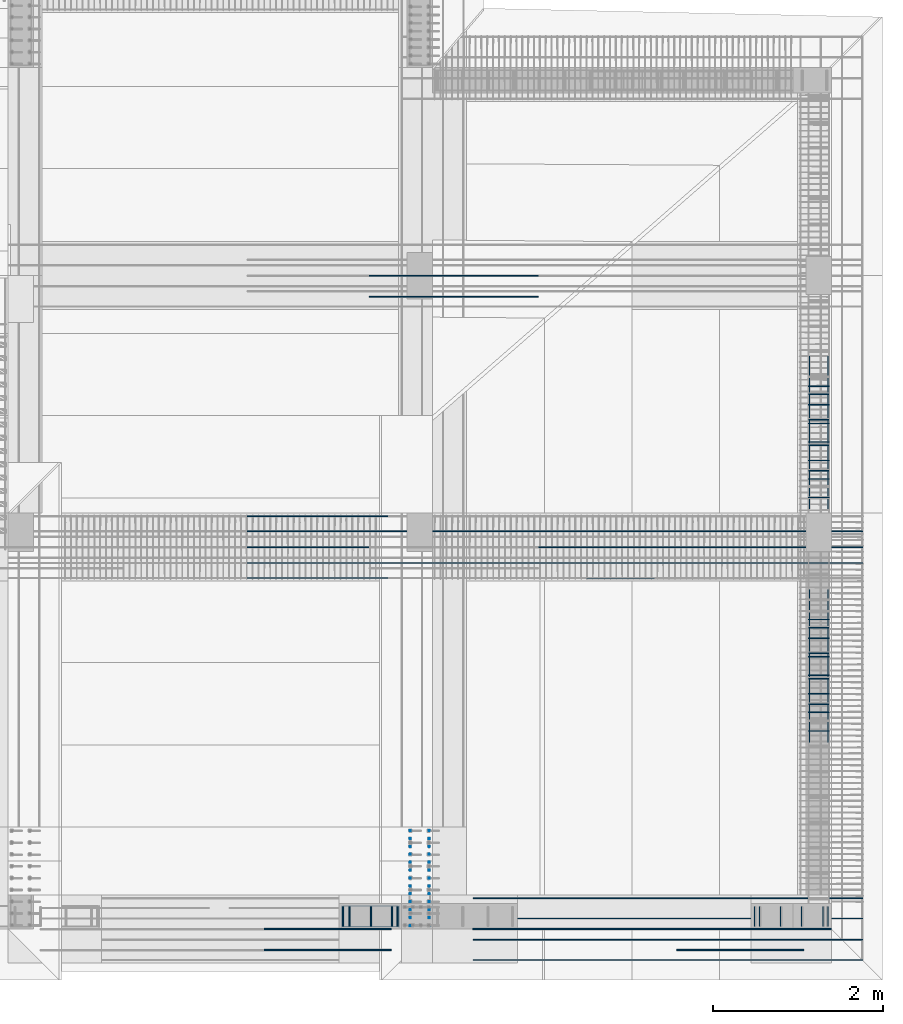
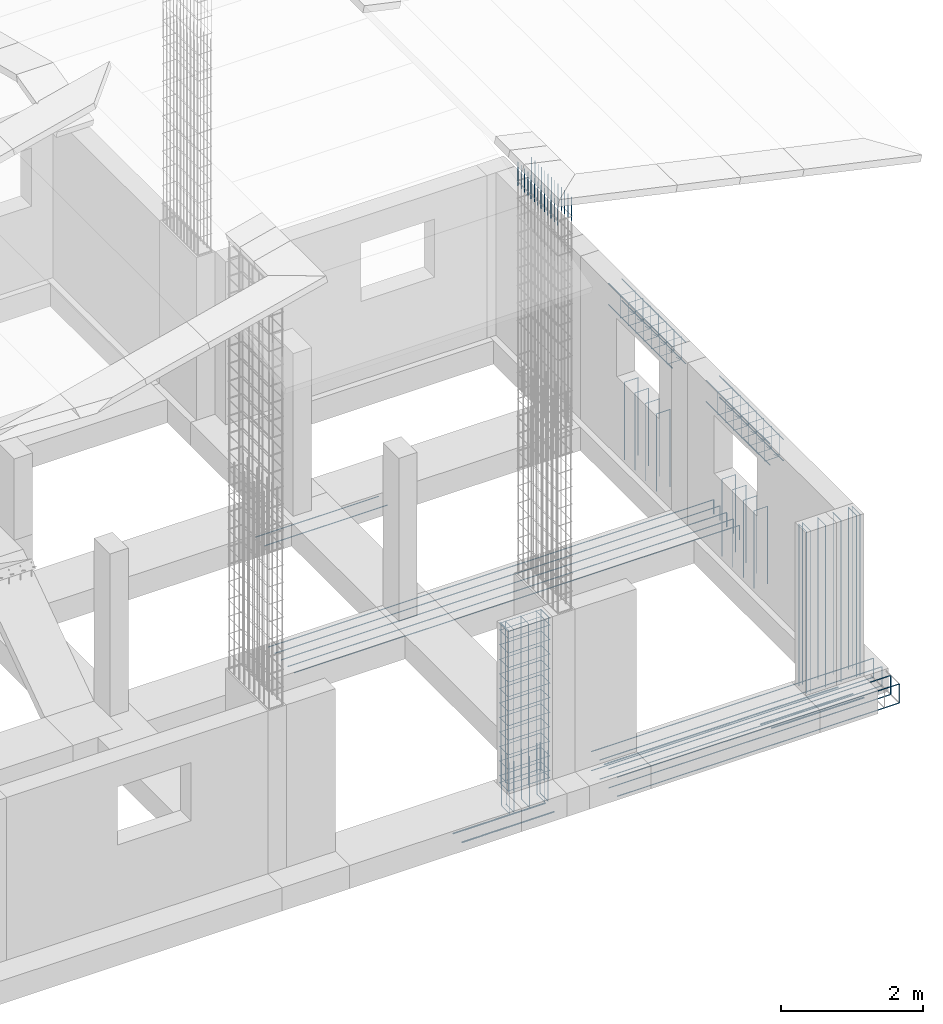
# One storey, part 8 of 15: 13 reinforcing bars.
"""IFC4 building model written with IfcOpenShell, lengths in metres."""

import ifcopenshell
import ifcopenshell.guid

model = None  # the IFC model being written
_history = None  # IfcOwnerHistory: only IFC2X3 demands one
_inside = {}  # id of a spatial element -> (the spatial element, [elements in it])
_under = {}  # id of a project, library or spatial element -> (it, [spatial elements below it])
_declared = {}  # id of a project -> (the project, [libraries it declares])
_typed = {}  # id of a type object -> (the type object, [elements of that type])
_made_of = {}  # id of a material, layer set ... -> (it, [elements and type objects made of it])


def new_model(schema):
    """Start an empty IFC model of exactly this schema.

    Asked for "IFC4X3", IfcOpenShell would pick the latest addendum, in which some entities
    have other attributes; the version numbers below select the first issue.
    IFC2X3 requires an IfcOwnerHistory on every rooted entity: one is made here for all.
    """
    global model, _history
    if schema == "IFC4X3":
        model = ifcopenshell.file(schema_version=(4, 3, 0, 0))
    else:
        model = ifcopenshell.file(schema=schema)
    _inside.clear()
    _under.clear()
    _declared.clear()
    _typed.clear()
    _made_of.clear()
    _history = None
    if model.schema == "IFC2X3":
        org = make("IfcOrganization", Name="unknown")
        user = make(
            "IfcPersonAndOrganization",
            ThePerson=make("IfcPerson", FamilyName="unknown"),
            TheOrganization=org,
        )
        app = make(
            "IfcApplication",
            ApplicationDeveloper=org,
            Version="unknown",
            ApplicationFullName="unknown",
            ApplicationIdentifier="unknown",
        )
        _history = make(
            "IfcOwnerHistory",
            OwningUser=user,
            OwningApplication=app,
            ChangeAction="ADDED",
            CreationDate=0,
        )
    return model


def make(cls, **values):
    """One entity of the class cls with the attributes given. An attribute that is None is left unset."""
    return model.create_entity(
        cls, **{name: value for name, value in values.items() if value is not None}
    )


def entity(cls, *values):
    """Any entity or typed value of the class cls, its attributes in the order of the schema. None: left unset."""
    e = model.create_entity(cls)
    for i, value in enumerate(values):
        if value is not None:
            e[i] = value
    return e


def rooted(cls, **values):
    """An entity with a GlobalId (a new one), such as an element, a storey or a relation."""
    return make(cls, GlobalId=ifcopenshell.guid.new(), OwnerHistory=_history, **values)


def si_unit(unit_type, name, prefix=None):
    """IfcSIUnit, for example si_unit("LENGTHUNIT", "METRE", prefix="MILLI")."""
    return make("IfcSIUnit", UnitType=unit_type, Prefix=prefix, Name=name)


def assignment(units):
    """IfcUnitAssignment: the units of a project."""
    return None if units is None else make("IfcUnitAssignment", Units=units)


def point(xyz):
    """IfcCartesianPoint."""
    return None if xyz is None else make("IfcCartesianPoint", Coordinates=xyz)


def direction(xyz):
    """IfcDirection."""
    return None if xyz is None else make("IfcDirection", DirectionRatios=xyz)


def frame(location, z_axis=None, x_axis=None):
    """IfcAxis2Placement3D, a coordinate frame: its origin and axes. An axis left out is left unset."""
    return make(
        "IfcAxis2Placement3D",
        Location=point(location),
        Axis=direction(z_axis),
        RefDirection=direction(x_axis),
    )


def origin_with_axes():
    """The frame at (0, 0, 0) with the z axis (0, 0, 1) and the x axis (1, 0, 0) written out."""
    return frame((0.0, 0.0, 0.0), z_axis=(0.0, 0.0, 1.0), x_axis=(1.0, 0.0, 0.0))


def place(relative_to, where):
    """IfcLocalPlacement: puts the frame where relative to a parent placement (None: the world)."""
    return make(
        "IfcLocalPlacement", PlacementRelTo=relative_to, RelativePlacement=where
    )


def context(
    kind, dimensions, precision=None, world=None, true_north=None, identifier=None
):
    """IfcGeometricRepresentationContext, for example the 3D "Model" context."""
    return make(
        "IfcGeometricRepresentationContext",
        ContextIdentifier=identifier,
        ContextType=kind,
        CoordinateSpaceDimension=dimensions,
        Precision=precision,
        WorldCoordinateSystem=world,
        TrueNorth=true_north,
    )


def project(units=None, contexts=None):
    """IfcProject with its units and contexts."""
    return rooted(
        "IfcProject",
        Name="project",
        RepresentationContexts=contexts,
        UnitsInContext=assignment(units),
    )


def spatial(cls, under=None, at=None, **own):
    """A site, building, storey or space (cls), placed at a placement, below another one or the project."""
    s = rooted(cls, ObjectPlacement=at, **own)
    if under is not None:
        _under.setdefault(under.id(), (under, []))[1].append(s)
    return s


def shape(context_of_items, identifier, shape_type, items):
    """IfcShapeRepresentation: the items that make up one representation, for example the "Body"."""
    return make(
        "IfcShapeRepresentation",
        ContextOfItems=context_of_items,
        RepresentationIdentifier=identifier,
        RepresentationType=shape_type,
        Items=items,
    )


def source(mapping_origin, context_of_items, identifier, shape_type, items):
    """IfcRepresentationMap: a shape defined once, which mapped items show again and again."""
    return make(
        "IfcRepresentationMap",
        MappingOrigin=mapping_origin,
        MappedRepresentation=shape(context_of_items, identifier, shape_type, items),
    )


def transform(
    local_origin,
    x_axis=None,
    y_axis=None,
    z_axis=None,
    scale=None,
    scale2=None,
    scale3=None,
    uniform=True,
):
    """IfcCartesianTransformationOperator3D, or its non-uniform kind. x_axis, y_axis, z_axis: its Axis1, 2, 3."""
    if uniform:
        return make(
            "IfcCartesianTransformationOperator3D",
            Axis1=direction(x_axis),
            Axis2=direction(y_axis),
            LocalOrigin=point(local_origin),
            Scale=scale,
            Axis3=direction(z_axis),
        )
    return make(
        "IfcCartesianTransformationOperator3DnonUniform",
        Axis1=direction(x_axis),
        Axis2=direction(y_axis),
        LocalOrigin=point(local_origin),
        Scale=scale,
        Axis3=direction(z_axis),
        Scale2=scale2,
        Scale3=scale3,
    )


def mapped(mapping_source, mapping_target):
    """IfcMappedItem: shows the shape of a source again, moved by a transform."""
    return make(
        "IfcMappedItem", MappingSource=mapping_source, MappingTarget=mapping_target
    )


def made_of(thing, what):
    """Note that an element or type object is made of a material, layer set ...; save() writes the relation."""
    if what is not None:
        _made_of.setdefault(what.id(), (what, []))[1].append(thing)
    return thing


def element(
    cls,
    number,
    at=None,
    inside=None,
    cuts=None,
    type_object=None,
    material=None,
    context=None,
    identifier="Body",
    shape_type=None,
    held_by="IfcProductDefinitionShape",
    body=None,
    shapes=None,
    **own,
):
    """One element of the class cls, such as IfcWall. Its Tag is "e" and its number.

    at: its placement. inside: the storey or other place that contains it. cuts: it is an
    opening in that element (IfcRelVoidsElement). A single representation is given by context,
    identifier, shape_type and body (its items); several are given by shapes. held_by: the class
    of the entity that holds the representations. save() writes the other relations.
    """
    e = rooted(cls, Tag="e%d" % number, ObjectPlacement=at, **own)
    if body is not None:
        shapes = [shape(context, identifier, shape_type, body)]
    if shapes is not None:
        e.Representation = make(held_by, Representations=shapes)
    if inside is not None:
        _inside.setdefault(inside.id(), (inside, []))[1].append(e)
    if cuts is not None:
        rooted(
            "IfcRelVoidsElement", RelatingBuildingElement=cuts, RelatedOpeningElement=e
        )
    if type_object is not None:
        _typed.setdefault(type_object.id(), (type_object, []))[1].append(e)
    return made_of(e, material)


def aggregate(whole, parts):
    """IfcRelAggregates: a whole, such as a stair, and the parts it consists of."""
    return rooted("IfcRelAggregates", RelatingObject=whole, RelatedObjects=parts)


def save(model, path):
    """Write the relations noted so far, then the file.

    IfcRelAggregates (storeys below a building ...), IfcRelContainedInSpatialStructure (elements
    in a storey), IfcRelDefinesByType, IfcRelAssociatesMaterial and IfcRelDeclares: one each for
    every whole, place, type object, material and project.
    """
    for whole, parts in _under.values():
        aggregate(whole, parts)
    for where, things in _inside.values():
        rooted(
            "IfcRelContainedInSpatialStructure",
            RelatedElements=things,
            RelatingStructure=where,
        )
    for kind, things in _typed.values():
        rooted("IfcRelDefinesByType", RelatedObjects=things, RelatingType=kind)
    for what, things in _made_of.values():
        rooted("IfcRelAssociatesMaterial", RelatedObjects=things, RelatingMaterial=what)
    for by, libraries in _declared.values():
        rooted("IfcRelDeclares", RelatingContext=by, RelatedDefinitions=libraries)
    model.write(path)


model = new_model("IFC4")

# Units and contexts
model_context = context("Model", 3, precision=1e-05, world=origin_with_axes())
ifc_project = project(units=[si_unit("LENGTHUNIT", "METRE"), si_unit("AREAUNIT", "SQUARE_METRE"), si_unit("VOLUMEUNIT", "CUBIC_METRE"), si_unit("MASSUNIT", "GRAM", prefix="KILO"), si_unit("TIMEUNIT", "SECOND"), si_unit("PLANEANGLEUNIT", "RADIAN"), si_unit("SOLIDANGLEUNIT", "STERADIAN"), si_unit("THERMODYNAMICTEMPERATUREUNIT", "DEGREE_CELSIUS")], contexts=[model_context])

# Site, building, storey
placement_1 = place(None, origin_with_axes())
site = spatial("IfcSite", under=ifc_project, at=placement_1, Name="Italia", CompositionType="ELEMENT")
building = spatial("IfcBuilding", under=site, at=placement_1, Name="Bifamiliare", CompositionType="ELEMENT")
storey = spatial("IfcBuildingStorey", under=building, at=placement_1, Name="Storey 0", CompositionType="ELEMENT", Elevation=0.0)

# Reinforcing bars
shared_shape_1 = source(origin_with_axes(), model_context, "Body", "AdvancedSweptSolid", [
    entity("IfcSweptDiskSolid", entity("IfcIndexedPolyCurve", entity("IfcCartesianPointList3D", [[10.761, 2.561, 9.47667], [10.761, 2.561, 9.88333]]), [entity("IfcLineIndex", [1, 2])], False), 0.006),
])
placement_2 = place(placement_1, origin_with_axes())
reinforcing_bar_1_placement = place(placement_2, origin_with_axes())
element("IfcReinforcingBar", 1, at=reinforcing_bar_1_placement, inside=storey, BarLength=0.406667, CrossSectionArea=0.0001131, NominalDiameter=0.012, context=model_context, shape_type="MappedRepresentation", body=[
    mapped(shared_shape_1, transform((0.0, -1.122, 0.0), x_axis=(1.0, 0.0, 0.0), y_axis=(0.0, 1.0, 0.0), z_axis=(0.0, 0.0, 1.0), scale=1.0)),
    mapped(shared_shape_1, transform((0.0, -1.02683, 0.0), x_axis=(1.0, 0.0, 0.0), y_axis=(0.0, 1.0, 0.0), z_axis=(0.0, 0.0, 1.0), scale=1.0)),
    mapped(shared_shape_1, transform((0.0, -0.654166, 0.0), x_axis=(1.0, 0.0, 0.0), y_axis=(0.0, 1.0, 0.0), z_axis=(0.0, 0.0, 1.0), scale=1.0)),
    mapped(shared_shape_1, transform((0.0, -0.8405, 0.0), x_axis=(1.0, 0.0, 0.0), y_axis=(0.0, 1.0, 0.0), z_axis=(0.0, 0.0, 1.0), scale=1.0)),
    mapped(shared_shape_1, transform((0.0, -0.747333, 0.0), x_axis=(1.0, 0.0, 0.0), y_axis=(0.0, 1.0, 0.0), z_axis=(0.0, 0.0, 1.0), scale=1.0)),
    mapped(shared_shape_1, transform((0.0, -0.933666, 0.0), x_axis=(1.0, 0.0, 0.0), y_axis=(0.0, 1.0, 0.0), z_axis=(0.0, 0.0, 1.0), scale=1.0)),
    mapped(shared_shape_1, transform((0.0, -0.561, 0.0), x_axis=(1.0, 0.0, 0.0), y_axis=(0.0, 1.0, 0.0), z_axis=(0.0, 0.0, 1.0), scale=1.0)),
    mapped(shared_shape_1, transform((0.0, -0.467833, 0.0), x_axis=(1.0, 0.0, 0.0), y_axis=(0.0, 1.0, 0.0), z_axis=(0.0, 0.0, 1.0), scale=1.0)),
    mapped(shared_shape_1, transform((0.0, -0.0951664, 0.0), x_axis=(1.0, 0.0, 0.0), y_axis=(0.0, 1.0, 0.0), z_axis=(0.0, 0.0, 1.0), scale=1.0)),
    mapped(shared_shape_1, transform((0.0, -0.2815, 0.0), x_axis=(1.0, 0.0, 0.0), y_axis=(0.0, 1.0, 0.0), z_axis=(0.0, 0.0, 1.0), scale=1.0)),
    mapped(shared_shape_1, transform((0.0, -0.188333, 0.0), x_axis=(1.0, 0.0, 0.0), y_axis=(0.0, 1.0, 0.0), z_axis=(0.0, 0.0, 1.0), scale=1.0)),
    mapped(shared_shape_1, transform((0.0, -0.374666, 0.0), x_axis=(1.0, 0.0, 0.0), y_axis=(0.0, 1.0, 0.0), z_axis=(0.0, 0.0, 1.0), scale=1.0)),
    mapped(shared_shape_1, transform((0.0, 0.0, 0.0), x_axis=(1.0, 0.0, 0.0), y_axis=(0.0, 1.0, 0.0), z_axis=(0.0, 0.0, 1.0), scale=1.0)),
    mapped(shared_shape_1, transform((-0.222, 0.0, 0.0), x_axis=(1.0, 0.0, 0.0), y_axis=(0.0, 1.0, 0.0), z_axis=(0.0, 0.0, 1.0), scale=1.0)),
    mapped(shared_shape_1, transform((-0.222, -0.374667, 0.0), x_axis=(1.0, 0.0, 0.0), y_axis=(0.0, 1.0, 0.0), z_axis=(0.0, 0.0, 1.0), scale=1.0)),
    mapped(shared_shape_1, transform((-0.222, -0.188333, 0.0), x_axis=(1.0, 0.0, 0.0), y_axis=(0.0, 1.0, 0.0), z_axis=(0.0, 0.0, 1.0), scale=1.0)),
    mapped(shared_shape_1, transform((-0.222, -0.2815, 0.0), x_axis=(1.0, 0.0, 0.0), y_axis=(0.0, 1.0, 0.0), z_axis=(0.0, 0.0, 1.0), scale=1.0)),
    mapped(shared_shape_1, transform((-0.222, -0.0951667, 0.0), x_axis=(1.0, 0.0, 0.0), y_axis=(0.0, 1.0, 0.0), z_axis=(0.0, 0.0, 1.0), scale=1.0)),
    mapped(shared_shape_1, transform((-0.222, -0.467833, 0.0), x_axis=(1.0, 0.0, 0.0), y_axis=(0.0, 1.0, 0.0), z_axis=(0.0, 0.0, 1.0), scale=1.0)),
    mapped(shared_shape_1, transform((-0.222, -0.561, 0.0), x_axis=(1.0, 0.0, 0.0), y_axis=(0.0, 1.0, 0.0), z_axis=(0.0, 0.0, 1.0), scale=1.0)),
    mapped(shared_shape_1, transform((-0.222, -0.933666, 0.0), x_axis=(1.0, 0.0, 0.0), y_axis=(0.0, 1.0, 0.0), z_axis=(0.0, 0.0, 1.0), scale=1.0)),
    mapped(shared_shape_1, transform((-0.222, -0.747333, 0.0), x_axis=(1.0, 0.0, 0.0), y_axis=(0.0, 1.0, 0.0), z_axis=(0.0, 0.0, 1.0), scale=1.0)),
    mapped(shared_shape_1, transform((-0.222, -0.8405, 0.0), x_axis=(1.0, 0.0, 0.0), y_axis=(0.0, 1.0, 0.0), z_axis=(0.0, 0.0, 1.0), scale=1.0)),
    mapped(shared_shape_1, transform((-0.222, -0.654167, 0.0), x_axis=(1.0, 0.0, 0.0), y_axis=(0.0, 1.0, 0.0), z_axis=(0.0, 0.0, 1.0), scale=1.0)),
    mapped(shared_shape_1, transform((-0.222, -1.02683, 0.0), x_axis=(1.0, 0.0, 0.0), y_axis=(0.0, 1.0, 0.0), z_axis=(0.0, 0.0, 1.0), scale=1.0)),
    mapped(shared_shape_1, transform((-0.222, -1.122, 0.0), x_axis=(1.0, 0.0, 0.0), y_axis=(0.0, 1.0, 0.0), z_axis=(0.0, 0.0, 1.0), scale=1.0)),
])
shared_shape_2 = source(origin_with_axes(), model_context, "Body", "AdvancedSweptSolid", [
    entity("IfcSweptDiskSolid", entity("IfcIndexedPolyCurve", entity("IfcCartesianPointList3D", [[15.241, 7.7, 0.0], [15.241, 7.7, 1.331], [15.467, 7.7, 1.331]]), [entity("IfcLineIndex", [1, 2]), entity("IfcLineIndex", [2, 3])], False), 0.006),
])
reinforcing_bar_2_placement = place(placement_2, origin_with_axes())
element("IfcReinforcingBar", 2, at=reinforcing_bar_2_placement, inside=storey, BarLength=1.557, CrossSectionArea=0.0001131, NominalDiameter=0.012, context=model_context, shape_type="MappedRepresentation", body=[
    mapped(shared_shape_2, transform((30.7, 14.8, 0.0), x_axis=(-1.0, 0.0, 0.0), y_axis=(0.0, -1.0, 0.0), z_axis=(0.0, 0.0, 1.0), scale=1.0)),
    mapped(shared_shape_2, transform((0.0, -0.599999, 0.0), x_axis=(1.0, 0.0, 0.0), y_axis=(0.0, 1.0, 0.0), z_axis=(0.0, 0.0, 1.0), scale=1.0)),
    mapped(shared_shape_2, transform((30.7, 14.5, 0.0), x_axis=(-1.0, 0.0, 0.0), y_axis=(0.0, -1.0, 0.0), z_axis=(0.0, 0.0, 1.0), scale=1.0)),
    mapped(shared_shape_2, transform((0.0, -0.899999, 0.0), x_axis=(1.0, 0.0, 0.0), y_axis=(0.0, 1.0, 0.0), z_axis=(0.0, 0.0, 1.0), scale=1.0)),
    mapped(shared_shape_2, transform((30.7, 15.4, 0.0), x_axis=(-1.0, 0.0, 0.0), y_axis=(0.0, -1.0, 0.0), z_axis=(0.0, 0.0, 1.0), scale=1.0)),
    mapped(shared_shape_2, transform((0.0, 0.0, 0.0), x_axis=(1.0, 0.0, 0.0), y_axis=(0.0, 1.0, 0.0), z_axis=(0.0, 0.0, 1.0), scale=1.0)),
    mapped(shared_shape_2, transform((30.7, 15.1, 0.0), x_axis=(-1.0, 0.0, 0.0), y_axis=(0.0, -1.0, 0.0), z_axis=(0.0, 0.0, 1.0), scale=1.0)),
    mapped(shared_shape_2, transform((0.0, -0.299999, 0.0), x_axis=(1.0, 0.0, 0.0), y_axis=(0.0, 1.0, 0.0), z_axis=(0.0, 0.0, 1.0), scale=1.0)),
    mapped(shared_shape_2, transform((30.7, 12.05, 0.0), x_axis=(-1.0, 0.0, 0.0), y_axis=(0.0, -1.0, 0.0), z_axis=(0.0, 0.0, 1.0), scale=1.0)),
    mapped(shared_shape_2, transform((0.0, -3.35, 0.0), x_axis=(1.0, 0.0, 0.0), y_axis=(0.0, 1.0, 0.0), z_axis=(0.0, 0.0, 1.0), scale=1.0)),
    mapped(shared_shape_2, transform((30.7, 11.75, 0.0), x_axis=(-1.0, 0.0, 0.0), y_axis=(0.0, -1.0, 0.0), z_axis=(0.0, 0.0, 1.0), scale=1.0)),
    mapped(shared_shape_2, transform((0.0, -3.65, 0.0), x_axis=(1.0, 0.0, 0.0), y_axis=(0.0, 1.0, 0.0), z_axis=(0.0, 0.0, 1.0), scale=1.0)),
    mapped(shared_shape_2, transform((30.7, 12.65, 0.0), x_axis=(-1.0, 0.0, 0.0), y_axis=(0.0, -1.0, 0.0), z_axis=(0.0, 0.0, 1.0), scale=1.0)),
    mapped(shared_shape_2, transform((0.0, -2.75, 0.0), x_axis=(1.0, 0.0, 0.0), y_axis=(0.0, 1.0, 0.0), z_axis=(0.0, 0.0, 1.0), scale=1.0)),
    mapped(shared_shape_2, transform((30.7, 12.35, 0.0), x_axis=(-1.0, 0.0, 0.0), y_axis=(0.0, -1.0, 0.0), z_axis=(0.0, 0.0, 1.0), scale=1.0)),
    mapped(shared_shape_2, transform((0.0, -3.05, 0.0), x_axis=(1.0, 0.0, 0.0), y_axis=(0.0, 1.0, 0.0), z_axis=(0.0, 0.0, 1.0), scale=1.0)),
])
shared_shape_3 = source(origin_with_axes(), model_context, "Body", "AdvancedSweptSolid", [
    entity("IfcSweptDiskSolid", entity("IfcIndexedPolyCurve", entity("IfcCartesianPointList3D", [[15.459, 8.15, 2.391], [15.459, 6.35, 2.391]]), [entity("IfcLineIndex", [1, 2])], False), 0.008),
])
reinforcing_bar_3_placement = place(placement_2, origin_with_axes())
element("IfcReinforcingBar", 3, at=reinforcing_bar_3_placement, inside=storey, BarLength=1.8, CrossSectionArea=0.00020106, NominalDiameter=0.016, context=model_context, shape_type="MappedRepresentation", body=[
    mapped(shared_shape_3, transform((0.0, -2.75, 0.368001), x_axis=(1.0, 0.0, 0.0), y_axis=(0.0, 1.0, 0.0), z_axis=(0.0, 0.0, 1.0), scale=1.0)),
    mapped(shared_shape_3, transform((0.0, -2.75, 0.0), x_axis=(1.0, 0.0, 0.0), y_axis=(0.0, 1.0, 0.0), z_axis=(0.0, 0.0, 1.0), scale=1.0)),
    mapped(shared_shape_3, transform((-0.217999, -2.75, 0.368001), x_axis=(1.0, 0.0, 0.0), y_axis=(0.0, 1.0, 0.0), z_axis=(0.0, 0.0, 1.0), scale=1.0)),
    mapped(shared_shape_3, transform((-0.217999, -2.75, 0.0), x_axis=(1.0, 0.0, 0.0), y_axis=(0.0, 1.0, 0.0), z_axis=(0.0, 0.0, 1.0), scale=1.0)),
    mapped(shared_shape_3, transform((0.0, 0.0, 0.368001), x_axis=(1.0, 0.0, 0.0), y_axis=(0.0, 1.0, 0.0), z_axis=(0.0, 0.0, 1.0), scale=1.0)),
    mapped(shared_shape_3, transform((0.0, 0.0, 0.0), x_axis=(1.0, 0.0, 0.0), y_axis=(0.0, 1.0, 0.0), z_axis=(0.0, 0.0, 1.0), scale=1.0)),
    mapped(shared_shape_3, transform((-0.217999, 0.0, 0.368001), x_axis=(1.0, 0.0, 0.0), y_axis=(0.0, 1.0, 0.0), z_axis=(0.0, 0.0, 1.0), scale=1.0)),
    mapped(shared_shape_3, transform((-0.217999, 0.0, 0.0), x_axis=(1.0, 0.0, 0.0), y_axis=(0.0, 1.0, 0.0), z_axis=(0.0, 0.0, 1.0), scale=1.0)),
])
shared_shape_4 = source(origin_with_axes(), model_context, "Body", "AdvancedSweptSolid", [
    entity("IfcSweptDiskSolid", entity("IfcIndexedPolyCurve", entity("IfcCartesianPointList3D", [[15.4003, 7.796, 2.47071], [15.4681, 7.796, 2.40293], [15.471, 7.796, 2.39586], [15.471, 7.796, 2.389], [15.4702, 7.796, 2.38517], [15.4681, 7.796, 2.38193], [15.4648, 7.796, 2.37976], [15.461, 7.796, 2.379], [15.239, 7.796, 2.379], [15.2352, 7.796, 2.37976], [15.2319, 7.796, 2.38193], [15.2298, 7.796, 2.38517], [15.229, 7.796, 2.389], [15.229, 7.796, 2.761], [15.2298, 7.796, 2.76483], [15.2319, 7.796, 2.76807], [15.2352, 7.796, 2.77024], [15.239, 7.796, 2.771], [15.461, 7.796, 2.771], [15.4648, 7.796, 2.77024], [15.4681, 7.796, 2.76807], [15.4702, 7.796, 2.76483], [15.471, 7.796, 2.761], [15.471, 7.796, 2.389], [15.4702, 7.796, 2.38517], [15.4681, 7.796, 2.38193], [15.4648, 7.796, 2.37976], [15.461, 7.796, 2.379], [15.4541, 7.796, 2.379], [15.4471, 7.796, 2.38193], [15.3793, 7.796, 2.44971]]), [entity("IfcLineIndex", [1, 2]), entity("IfcLineIndex", [2, 3]), entity("IfcLineIndex", [3, 4]), entity("IfcLineIndex", [4, 5]), entity("IfcLineIndex", [5, 6]), entity("IfcLineIndex", [6, 7]), entity("IfcLineIndex", [7, 8]), entity("IfcLineIndex", [8, 9]), entity("IfcLineIndex", [9, 10]), entity("IfcLineIndex", [10, 11]), entity("IfcLineIndex", [11, 12]), entity("IfcLineIndex", [12, 13]), entity("IfcLineIndex", [13, 14]), entity("IfcLineIndex", [14, 15]), entity("IfcLineIndex", [15, 16]), entity("IfcLineIndex", [16, 17]), entity("IfcLineIndex", [17, 18]), entity("IfcLineIndex", [18, 19]), entity("IfcLineIndex", [19, 20]), entity("IfcLineIndex", [20, 21]), entity("IfcLineIndex", [21, 22]), entity("IfcLineIndex", [22, 23]), entity("IfcLineIndex", [23, 24]), entity("IfcLineIndex", [24, 25]), entity("IfcLineIndex", [25, 26]), entity("IfcLineIndex", [26, 27]), entity("IfcLineIndex", [27, 28]), entity("IfcLineIndex", [28, 29]), entity("IfcLineIndex", [29, 30]), entity("IfcLineIndex", [30, 31])], False), 0.004),
])
reinforcing_bar_4_placement = place(placement_2, origin_with_axes())
element("IfcReinforcingBar", 4, at=reinforcing_bar_4_placement, inside=storey, BarLength=1.48678, CrossSectionArea=5.0265e-05, NominalDiameter=0.008, context=model_context, shape_type="MappedRepresentation", body=[
    mapped(shared_shape_4, transform((0.0, -2.9684, 0.0), x_axis=(1.0, 0.0, 0.0), y_axis=(0.0, 1.0, 0.0), z_axis=(0.0, 0.0, 1.0), scale=1.0)),
    mapped(shared_shape_4, transform((0.0, -2.75, 0.0), x_axis=(1.0, 0.0, 0.0), y_axis=(0.0, 1.0, 0.0), z_axis=(0.0, 0.0, 1.0), scale=1.0)),
    mapped(shared_shape_4, transform((0.0, -3.1868, 0.0), x_axis=(1.0, 0.0, 0.0), y_axis=(0.0, 1.0, 0.0), z_axis=(0.0, 0.0, 1.0), scale=1.0)),
    mapped(shared_shape_4, transform((0.0, -3.6236, 0.0), x_axis=(1.0, 0.0, 0.0), y_axis=(0.0, 1.0, 0.0), z_axis=(0.0, 0.0, 1.0), scale=1.0)),
    mapped(shared_shape_4, transform((0.0, -3.4052, 0.0), x_axis=(1.0, 0.0, 0.0), y_axis=(0.0, 1.0, 0.0), z_axis=(0.0, 0.0, 1.0), scale=1.0)),
    mapped(shared_shape_4, transform((0.0, -3.842, 0.0), x_axis=(1.0, 0.0, 0.0), y_axis=(0.0, 1.0, 0.0), z_axis=(0.0, 0.0, 1.0), scale=1.0)),
    mapped(shared_shape_4, transform((0.0, 0.0, 0.0), x_axis=(1.0, 0.0, 0.0), y_axis=(0.0, 1.0, 0.0), z_axis=(0.0, 0.0, 1.0), scale=1.0)),
    mapped(shared_shape_4, transform((0.0, -4.0604, 0.0), x_axis=(1.0, 0.0, 0.0), y_axis=(0.0, 1.0, 0.0), z_axis=(0.0, 0.0, 1.0), scale=1.0)),
    mapped(shared_shape_4, transform((0.0, -0.2184, 0.0), x_axis=(1.0, 0.0, 0.0), y_axis=(0.0, 1.0, 0.0), z_axis=(0.0, 0.0, 1.0), scale=1.0)),
    mapped(shared_shape_4, transform((0.0, -0.6552, 0.0), x_axis=(1.0, 0.0, 0.0), y_axis=(0.0, 1.0, 0.0), z_axis=(0.0, 0.0, 1.0), scale=1.0)),
    mapped(shared_shape_4, transform((0.0, -0.4368, 0.0), x_axis=(1.0, 0.0, 0.0), y_axis=(0.0, 1.0, 0.0), z_axis=(0.0, 0.0, 1.0), scale=1.0)),
    mapped(shared_shape_4, transform((0.0, -0.8736, 0.0), x_axis=(1.0, 0.0, 0.0), y_axis=(0.0, 1.0, 0.0), z_axis=(0.0, 0.0, 1.0), scale=1.0)),
    mapped(shared_shape_4, transform((0.0, -1.3104, 0.0), x_axis=(1.0, 0.0, 0.0), y_axis=(0.0, 1.0, 0.0), z_axis=(0.0, 0.0, 1.0), scale=1.0)),
    mapped(shared_shape_4, transform((0.0, -1.092, 0.0), x_axis=(1.0, 0.0, 0.0), y_axis=(0.0, 1.0, 0.0), z_axis=(0.0, 0.0, 1.0), scale=1.0)),
])
shared_shape_5 = source(origin_with_axes(), model_context, "Body", "AdvancedSweptSolid", [
    entity("IfcSweptDiskSolid", entity("IfcIndexedPolyCurve", entity("IfcCartesianPointList3D", [[15.459, 1.659, 0.0], [15.459, 1.659, 2.781], [15.459, 1.433, 2.781]]), [entity("IfcLineIndex", [1, 2]), entity("IfcLineIndex", [2, 3])], False), 0.006),
])
reinforcing_bar_5_placement = place(placement_2, origin_with_axes())
element("IfcReinforcingBar", 5, at=reinforcing_bar_5_placement, inside=storey, BarLength=3.007, CrossSectionArea=0.0001131, NominalDiameter=0.012, context=model_context, shape_type="MappedRepresentation", body=[
    mapped(shared_shape_5, transform((-0.809, 0.0, 0.0), x_axis=(1.0, 0.0, 0.0), y_axis=(0.0, 1.0, 0.0), z_axis=(0.0, 0.0, 1.0), scale=1.0)),
    mapped(shared_shape_5, transform((30.359, 3.1, 0.0), x_axis=(-1.0, 0.0, 0.0), y_axis=(0.0, -1.0, 0.0), z_axis=(0.0, 0.0, 1.0), scale=1.0)),
    mapped(shared_shape_5, transform((-0.559, 0.0, 0.0), x_axis=(1.0, 0.0, 0.0), y_axis=(0.0, 1.0, 0.0), z_axis=(0.0, 0.0, 1.0), scale=1.0)),
    mapped(shared_shape_5, transform((30.05, 3.1, 0.0), x_axis=(-1.0, 0.0, 0.0), y_axis=(0.0, -1.0, 0.0), z_axis=(0.0, 0.0, 1.0), scale=1.0)),
    mapped(shared_shape_5, transform((-0.867999, 0.0, 0.0), x_axis=(1.0, 0.0, 0.0), y_axis=(0.0, 1.0, 0.0), z_axis=(0.0, 0.0, 1.0), scale=1.0)),
    mapped(shared_shape_5, transform((30.109, 3.1, 0.0), x_axis=(-1.0, 0.0, 0.0), y_axis=(0.0, -1.0, 0.0), z_axis=(0.0, 0.0, 1.0), scale=1.0)),
    mapped(shared_shape_5, transform((-0.059, 0.0, 0.0), x_axis=(1.0, 0.0, 0.0), y_axis=(0.0, 1.0, 0.0), z_axis=(0.0, 0.0, 1.0), scale=1.0)),
    mapped(shared_shape_5, transform((30.918, 3.1, 0.0), x_axis=(-1.0, 0.0, 0.0), y_axis=(0.0, -1.0, 0.0), z_axis=(0.0, 0.0, 1.0), scale=1.0)),
    mapped(shared_shape_5, transform((0.0, 0.0, 0.0), x_axis=(1.0, 0.0, 0.0), y_axis=(0.0, 1.0, 0.0), z_axis=(0.0, 0.0, 1.0), scale=1.0)),
    mapped(shared_shape_5, transform((30.609, 3.1, 0.0), x_axis=(-1.0, 0.0, 0.0), y_axis=(0.0, -1.0, 0.0), z_axis=(0.0, 0.0, 1.0), scale=1.0)),
    mapped(shared_shape_5, transform((-0.309, 0.0, 0.0), x_axis=(1.0, 0.0, 0.0), y_axis=(0.0, 1.0, 0.0), z_axis=(0.0, 0.0, 1.0), scale=1.0)),
    mapped(shared_shape_5, transform((30.859, 3.1, 0.0), x_axis=(-1.0, 0.0, 0.0), y_axis=(0.0, -1.0, 0.0), z_axis=(0.0, 0.0, 1.0), scale=1.0)),
])
shared_shape_6 = source(origin_with_axes(), model_context, "Body", "AdvancedSweptSolid", [
    entity("IfcSweptDiskSolid", entity("IfcIndexedPolyCurve", entity("IfcCartesianPointList3D", [[10.3923, 1.659, 0.0], [10.3923, 1.659, 2.781], [10.3923, 1.433, 2.781]]), [entity("IfcLineIndex", [1, 2]), entity("IfcLineIndex", [2, 3])], False), 0.006),
])
reinforcing_bar_6_placement = place(placement_2, origin_with_axes())
element("IfcReinforcingBar", 6, at=reinforcing_bar_6_placement, inside=storey, BarLength=3.007, CrossSectionArea=0.0001131, NominalDiameter=0.012, context=model_context, shape_type="MappedRepresentation", body=[
    mapped(shared_shape_6, transform((-0.575666, 0.0, 0.0), x_axis=(1.0, 0.0, 0.0), y_axis=(0.0, 1.0, 0.0), z_axis=(0.0, 0.0, 1.0), scale=1.0)),
    mapped(shared_shape_6, transform((20.459, 3.1, 0.0), x_axis=(-1.0, 0.0, 0.0), y_axis=(0.0, -1.0, 0.0), z_axis=(0.0, 0.0, 1.0), scale=1.0)),
    mapped(shared_shape_6, transform((-0.651333, 0.0, 0.0), x_axis=(1.0, 0.0, 0.0), y_axis=(0.0, 1.0, 0.0), z_axis=(0.0, 0.0, 1.0), scale=1.0)),
    mapped(shared_shape_6, transform((20.209, 3.1, 0.0), x_axis=(-1.0, 0.0, 0.0), y_axis=(0.0, -1.0, 0.0), z_axis=(0.0, 0.0, 1.0), scale=1.0)),
    mapped(shared_shape_6, transform((0.0, 0.0, 0.0), x_axis=(1.0, 0.0, 0.0), y_axis=(0.0, 1.0, 0.0), z_axis=(0.0, 0.0, 1.0), scale=1.0)),
    mapped(shared_shape_6, transform((20.1333, 3.1, 0.0), x_axis=(-1.0, 0.0, 0.0), y_axis=(0.0, -1.0, 0.0), z_axis=(0.0, 0.0, 1.0), scale=1.0)),
    mapped(shared_shape_6, transform((-0.0756664, 0.0, 0.0), x_axis=(1.0, 0.0, 0.0), y_axis=(0.0, 1.0, 0.0), z_axis=(0.0, 0.0, 1.0), scale=1.0)),
    mapped(shared_shape_6, transform((20.7847, 3.1, 0.0), x_axis=(-1.0, 0.0, 0.0), y_axis=(0.0, -1.0, 0.0), z_axis=(0.0, 0.0, 1.0), scale=1.0)),
    mapped(shared_shape_6, transform((-0.325666, 0.0, 0.0), x_axis=(1.0, 0.0, 0.0), y_axis=(0.0, 1.0, 0.0), z_axis=(0.0, 0.0, 1.0), scale=1.0)),
    mapped(shared_shape_6, transform((20.709, 3.1, 0.0), x_axis=(-1.0, 0.0, 0.0), y_axis=(0.0, -1.0, 0.0), z_axis=(0.0, 0.0, 1.0), scale=1.0)),
])
shared_shape_7 = source(origin_with_axes(), model_context, "Body", "AdvancedSweptSolid", [
    entity("IfcSweptDiskSolid", entity("IfcIndexedPolyCurve", entity("IfcCartesianPointList3D", [[10.3803, 1.659, 0.5], [10.3803, 1.659, -0.345], [10.3803, 1.65672, -0.356481], [10.3803, 1.65021, -0.366213], [10.3803, 1.64048, -0.372716], [10.3803, 1.629, -0.375], [10.3803, 1.433, -0.375]]), [entity("IfcLineIndex", [1, 2]), entity("IfcLineIndex", [2, 3]), entity("IfcLineIndex", [3, 4]), entity("IfcLineIndex", [4, 5]), entity("IfcLineIndex", [5, 6]), entity("IfcLineIndex", [6, 7])], False), 0.006),
])
reinforcing_bar_7_placement = place(placement_2, origin_with_axes())
element("IfcReinforcingBar", 7, at=reinforcing_bar_7_placement, inside=storey, BarLength=1.08782, CrossSectionArea=0.0001131, NominalDiameter=0.012, context=model_context, shape_type="MappedRepresentation", body=[
    mapped(shared_shape_7, transform((-0.551666, 0.0, 0.0), x_axis=(1.0, 0.0, 0.0), y_axis=(0.0, 1.0, 0.0), z_axis=(0.0, 0.0, 1.0), scale=1.0)),
    mapped(shared_shape_7, transform((20.459, 3.1, 0.0), x_axis=(-1.0, 0.0, 0.0), y_axis=(0.0, -1.0, 0.0), z_axis=(0.0, 0.0, 1.0), scale=1.0)),
    mapped(shared_shape_7, transform((-0.627333, 0.0, 0.0), x_axis=(1.0, 0.0, 0.0), y_axis=(0.0, 1.0, 0.0), z_axis=(0.0, 0.0, 1.0), scale=1.0)),
    mapped(shared_shape_7, transform((20.209, 3.1, 0.0), x_axis=(-1.0, 0.0, 0.0), y_axis=(0.0, -1.0, 0.0), z_axis=(0.0, 0.0, 1.0), scale=1.0)),
    mapped(shared_shape_7, transform((0.0, 0.0, 0.0), x_axis=(1.0, 0.0, 0.0), y_axis=(0.0, 1.0, 0.0), z_axis=(0.0, 0.0, 1.0), scale=1.0)),
    mapped(shared_shape_7, transform((20.1333, 3.1, 0.0), x_axis=(-1.0, 0.0, 0.0), y_axis=(0.0, -1.0, 0.0), z_axis=(0.0, 0.0, 1.0), scale=1.0)),
    mapped(shared_shape_7, transform((-0.0516663, 0.0, 0.0), x_axis=(1.0, 0.0, 0.0), y_axis=(0.0, 1.0, 0.0), z_axis=(0.0, 0.0, 1.0), scale=1.0)),
    mapped(shared_shape_7, transform((20.7607, 3.1, 0.0), x_axis=(-1.0, 0.0, 0.0), y_axis=(0.0, -1.0, 0.0), z_axis=(0.0, 0.0, 1.0), scale=1.0)),
    mapped(shared_shape_7, transform((-0.301666, 0.0, 0.0), x_axis=(1.0, 0.0, 0.0), y_axis=(0.0, 1.0, 0.0), z_axis=(0.0, 0.0, 1.0), scale=1.0)),
    mapped(shared_shape_7, transform((20.709, 3.1, 0.0), x_axis=(-1.0, 0.0, 0.0), y_axis=(0.0, -1.0, 0.0), z_axis=(0.0, 0.0, 1.0), scale=1.0)),
])
shared_shape_8 = source(origin_with_axes(), model_context, "Body", "AdvancedSweptSolid", [
    entity("IfcSweptDiskSolid", entity("IfcIndexedPolyCurve", entity("IfcCartesianPointList3D", [[10.4033, 1.68, 0.03], [10.4033, 1.44, 0.03], [10.4026, 1.43617, 0.03], [10.4004, 1.43293, 0.03], [10.3972, 1.43076, 0.03], [10.3933, 1.43, 0.03], [9.74, 1.43, 0.03], [9.73617, 1.43076, 0.03], [9.73293, 1.43293, 0.03], [9.73076, 1.43617, 0.03], [9.73, 1.44, 0.03], [9.73, 1.68, 0.03]]), [entity("IfcLineIndex", [1, 2]), entity("IfcLineIndex", [2, 3]), entity("IfcLineIndex", [3, 4]), entity("IfcLineIndex", [4, 5]), entity("IfcLineIndex", [5, 6]), entity("IfcLineIndex", [6, 7]), entity("IfcLineIndex", [7, 8]), entity("IfcLineIndex", [8, 9]), entity("IfcLineIndex", [9, 10]), entity("IfcLineIndex", [10, 11]), entity("IfcLineIndex", [11, 12])], False), 0.005),
])
reinforcing_bar_8_placement = place(placement_2, origin_with_axes())
element("IfcReinforcingBar", 8, at=reinforcing_bar_8_placement, inside=storey, BarLength=1.16455, CrossSectionArea=7.854e-05, NominalDiameter=0.01, context=model_context, shape_type="MappedRepresentation", body=[
    mapped(shared_shape_8, transform((20.1333, 3.1, 0.0), x_axis=(-1.0, 0.0, 0.0), y_axis=(0.0, -1.0, 0.0), z_axis=(0.0, 0.0, 1.0), scale=1.0)),
    mapped(shared_shape_8, transform((0.0, 0.0, 1.37), x_axis=(1.0, 0.0, 0.0), y_axis=(0.0, 1.0, 0.0), z_axis=(0.0, 0.0, 1.0), scale=1.0)),
    mapped(shared_shape_8, transform((0.0, 0.0, 2.37), x_axis=(1.0, 0.0, 0.0), y_axis=(0.0, 1.0, 0.0), z_axis=(0.0, 0.0, 1.0), scale=1.0)),
    mapped(shared_shape_8, transform((0.0, 0.0, 0.87), x_axis=(1.0, 0.0, 0.0), y_axis=(0.0, 1.0, 0.0), z_axis=(0.0, 0.0, 1.0), scale=1.0)),
    mapped(shared_shape_8, transform((0.0, 0.0, 0.62), x_axis=(1.0, 0.0, 0.0), y_axis=(0.0, 1.0, 0.0), z_axis=(0.0, 0.0, 1.0), scale=1.0)),
    mapped(shared_shape_8, transform((0.0, 0.0, 2.74), x_axis=(1.0, 0.0, 0.0), y_axis=(0.0, 1.0, 0.0), z_axis=(0.0, 0.0, 1.0), scale=1.0)),
    mapped(shared_shape_8, transform((0.0, 0.0, 1.12), x_axis=(1.0, 0.0, 0.0), y_axis=(0.0, 1.0, 0.0), z_axis=(0.0, 0.0, 1.0), scale=1.0)),
    mapped(shared_shape_8, transform((0.0, 0.0, 2.62), x_axis=(1.0, 0.0, 0.0), y_axis=(0.0, 1.0, 0.0), z_axis=(0.0, 0.0, 1.0), scale=1.0)),
    mapped(shared_shape_8, transform((0.0, 0.0, 1.62), x_axis=(1.0, 0.0, 0.0), y_axis=(0.0, 1.0, 0.0), z_axis=(0.0, 0.0, 1.0), scale=1.0)),
    mapped(shared_shape_8, transform((0.0, 0.0, 0.12), x_axis=(1.0, 0.0, 0.0), y_axis=(0.0, 1.0, 0.0), z_axis=(0.0, 0.0, 1.0), scale=1.0)),
    mapped(shared_shape_8, transform((0.0, 0.0, 0.0), x_axis=(1.0, 0.0, 0.0), y_axis=(0.0, 1.0, 0.0), z_axis=(0.0, 0.0, 1.0), scale=1.0)),
    mapped(shared_shape_8, transform((20.1333, 3.1, 0.12), x_axis=(-1.0, 0.0, 0.0), y_axis=(0.0, -1.0, 0.0), z_axis=(0.0, 0.0, 1.0), scale=1.0)),
    mapped(shared_shape_8, transform((20.1333, 3.1, 0.37), x_axis=(-1.0, 0.0, 0.0), y_axis=(0.0, -1.0, 0.0), z_axis=(0.0, 0.0, 1.0), scale=1.0)),
    mapped(shared_shape_8, transform((0.0, 0.0, 2.12), x_axis=(1.0, 0.0, 0.0), y_axis=(0.0, 1.0, 0.0), z_axis=(0.0, 0.0, 1.0), scale=1.0)),
    mapped(shared_shape_8, transform((0.0, 0.0, 0.37), x_axis=(1.0, 0.0, 0.0), y_axis=(0.0, 1.0, 0.0), z_axis=(0.0, 0.0, 1.0), scale=1.0)),
    mapped(shared_shape_8, transform((20.1333, 3.1, 1.37), x_axis=(-1.0, 0.0, 0.0), y_axis=(0.0, -1.0, 0.0), z_axis=(0.0, 0.0, 1.0), scale=1.0)),
    mapped(shared_shape_8, transform((20.1333, 3.1, 1.62), x_axis=(-1.0, 0.0, 0.0), y_axis=(0.0, -1.0, 0.0), z_axis=(0.0, 0.0, 1.0), scale=1.0)),
    mapped(shared_shape_8, transform((20.1333, 3.1, 1.87), x_axis=(-1.0, 0.0, 0.0), y_axis=(0.0, -1.0, 0.0), z_axis=(0.0, 0.0, 1.0), scale=1.0)),
    mapped(shared_shape_8, transform((20.1333, 3.1, 1.12), x_axis=(-1.0, 0.0, 0.0), y_axis=(0.0, -1.0, 0.0), z_axis=(0.0, 0.0, 1.0), scale=1.0)),
    mapped(shared_shape_8, transform((20.1333, 3.1, 0.62), x_axis=(-1.0, 0.0, 0.0), y_axis=(0.0, -1.0, 0.0), z_axis=(0.0, 0.0, 1.0), scale=1.0)),
    mapped(shared_shape_8, transform((20.1333, 3.1, 0.87), x_axis=(-1.0, 0.0, 0.0), y_axis=(0.0, -1.0, 0.0), z_axis=(0.0, 0.0, 1.0), scale=1.0)),
    mapped(shared_shape_8, transform((0.0, 0.0, 1.87), x_axis=(1.0, 0.0, 0.0), y_axis=(0.0, 1.0, 0.0), z_axis=(0.0, 0.0, 1.0), scale=1.0)),
    mapped(shared_shape_8, transform((20.1333, 3.1, 2.37), x_axis=(-1.0, 0.0, 0.0), y_axis=(0.0, -1.0, 0.0), z_axis=(0.0, 0.0, 1.0), scale=1.0)),
    mapped(shared_shape_8, transform((20.1333, 3.1, 2.74), x_axis=(-1.0, 0.0, 0.0), y_axis=(0.0, -1.0, 0.0), z_axis=(0.0, 0.0, 1.0), scale=1.0)),
    mapped(shared_shape_8, transform((20.1333, 3.1, 2.62), x_axis=(-1.0, 0.0, 0.0), y_axis=(0.0, -1.0, 0.0), z_axis=(0.0, 0.0, 1.0), scale=1.0)),
    mapped(shared_shape_8, transform((20.1333, 3.1, 2.12), x_axis=(-1.0, 0.0, 0.0), y_axis=(0.0, -1.0, 0.0), z_axis=(0.0, 0.0, 1.0), scale=1.0)),
])
shared_shape_9 = source(origin_with_axes(), model_context, "Body", "AdvancedSweptSolid", [
    entity("IfcSweptDiskSolid", entity("IfcIndexedPolyCurve", entity("IfcCartesianPointList3D", [[11.2742, 1.036, -0.364], [11.8, 1.036, -0.364], [15.855, 1.036, -0.364], [15.8588, 1.036, -0.363239], [15.8621, 1.036, -0.361071], [15.8642, 1.036, -0.357827], [15.865, 1.036, -0.354], [15.865, 1.036, -0.114]]), [entity("IfcLineIndex", [1, 2]), entity("IfcLineIndex", [2, 3]), entity("IfcLineIndex", [3, 4]), entity("IfcLineIndex", [4, 5]), entity("IfcLineIndex", [5, 6]), entity("IfcLineIndex", [6, 7]), entity("IfcLineIndex", [7, 8])], False), 0.008),
])
reinforcing_bar_9_placement = place(placement_2, origin_with_axes())
element("IfcReinforcingBar", 9, at=reinforcing_bar_9_placement, inside=storey, BarLength=4.83642, CrossSectionArea=0.00020106, NominalDiameter=0.016, context=model_context, shape_type="MappedRepresentation", body=[
    mapped(shared_shape_9, transform((0.0, 2.8, -0.4), x_axis=(1.0, 0.0, 0.0), y_axis=(0.0, -1.0, 0.0), z_axis=(0.0, 0.0, -1.0), scale=1.0)),
    mapped(shared_shape_9, transform((0.0, 2.072, -0.4), x_axis=(1.0, 0.0, 0.0), y_axis=(0.0, -1.0, 0.0), z_axis=(0.0, 0.0, -1.0), scale=1.0)),
    mapped(shared_shape_9, transform((0.0, 2.56, -0.4), x_axis=(1.0, 0.0, 0.0), y_axis=(0.0, -1.0, 0.0), z_axis=(0.0, 0.0, -1.0), scale=1.0)),
    mapped(shared_shape_9, transform((0.0, 2.312, -0.4), x_axis=(1.0, 0.0, 0.0), y_axis=(0.0, -1.0, 0.0), z_axis=(0.0, 0.0, -1.0), scale=1.0)),
    mapped(shared_shape_9, transform((0.0, 0.728, 0.0), x_axis=(1.0, 0.0, 0.0), y_axis=(0.0, 1.0, 0.0), z_axis=(0.0, 0.0, 1.0), scale=1.0)),
    mapped(shared_shape_9, transform((0.0, 0.0, 0.0), x_axis=(1.0, 0.0, 0.0), y_axis=(0.0, 1.0, 0.0), z_axis=(0.0, 0.0, 1.0), scale=1.0)),
    mapped(shared_shape_9, transform((0.0, 0.488, 0.0), x_axis=(1.0, 0.0, 0.0), y_axis=(0.0, 1.0, 0.0), z_axis=(0.0, 0.0, 1.0), scale=1.0)),
    mapped(shared_shape_9, transform((0.0, 0.24, 0.0), x_axis=(1.0, 0.0, 0.0), y_axis=(0.0, 1.0, 0.0), z_axis=(0.0, 0.0, 1.0), scale=1.0)),
])
shared_shape_10 = source(origin_with_axes(), model_context, "Body", "AdvancedSweptSolid", [
    entity("IfcSweptDiskSolid", entity("IfcIndexedPolyCurve", entity("IfcCartesianPointList3D", [[13.9989, 1.4, -0.364], [14.5247, 1.4, -0.364], [14.973, 1.4, -0.364], [15.4989, 1.4, -0.364]]), [entity("IfcLineIndex", [1, 2]), entity("IfcLineIndex", [2, 3]), entity("IfcLineIndex", [3, 4])], False), 0.008),
])
reinforcing_bar_10_placement = place(placement_2, origin_with_axes())
element("IfcReinforcingBar", 10, at=reinforcing_bar_10_placement, inside=storey, BarLength=1.5, CrossSectionArea=0.00020106, NominalDiameter=0.016, context=model_context, shape_type="MappedRepresentation", body=[
    mapped(shared_shape_10, transform((-5.18462, 0.0, 0.0), x_axis=(1.0, 0.0, 0.0), y_axis=(0.0, 1.0, 0.0), z_axis=(0.0, 0.0, 1.0), scale=1.0)),
    mapped(shared_shape_10, transform((0.0, 0.0, 0.0), x_axis=(1.0, 0.0, 0.0), y_axis=(0.0, 1.0, 0.0), z_axis=(0.0, 0.0, 1.0), scale=1.0)),
    mapped(shared_shape_10, transform((-0.323774, -0.248, 0.328), x_axis=(1.0, 0.0, 0.0), y_axis=(0.0, 1.0, 0.0), z_axis=(0.0, 0.0, 1.0), scale=1.0)),
    mapped(shared_shape_10, transform((-5.18462, -0.248, 0.0), x_axis=(1.0, 0.0, 0.0), y_axis=(0.0, 1.0, 0.0), z_axis=(0.0, 0.0, 1.0), scale=1.0)),
])
shared_shape_11 = source(origin_with_axes(), model_context, "Body", "AdvancedSweptSolid", [
    entity("IfcSweptDiskSolid", entity("IfcIndexedPolyCurve", entity("IfcCartesianPointList3D", [[11.2742, 1.4, -0.036], [11.8, 1.4, -0.036], [14.55, 1.4, -0.036], [15.0758, 1.4, -0.036]]), [entity("IfcLineIndex", [1, 2]), entity("IfcLineIndex", [2, 3]), entity("IfcLineIndex", [3, 4])], False), 0.008),
])
reinforcing_bar_11_placement = place(placement_2, origin_with_axes())
element("IfcReinforcingBar", 11, at=reinforcing_bar_11_placement, inside=storey, BarLength=3.80163, CrossSectionArea=0.00020106, NominalDiameter=0.016, context=model_context, shape_type="MappedRepresentation", body=[
    mapped(shared_shape_11, transform((0.0, 0.0, 0.0), x_axis=(1.0, 0.0, 0.0), y_axis=(0.0, 1.0, 0.0), z_axis=(0.0, 0.0, 1.0), scale=1.0)),
])
shared_shape_12 = source(origin_with_axes(), model_context, "Body", "AdvancedSweptSolid", [
    entity("IfcSweptDiskSolid", entity("IfcIndexedPolyCurve", entity("IfcCartesianPointList3D", [[8.615, 5.536, -0.036], [9.14082, 5.536, -0.036], [15.855, 5.536, -0.036], [15.8588, 5.536, -0.0367612], [15.8621, 5.536, -0.0389289], [15.8642, 5.536, -0.0421732], [15.865, 5.536, -0.046], [15.865, 5.536, -0.286]]), [entity("IfcLineIndex", [1, 2]), entity("IfcLineIndex", [2, 3]), entity("IfcLineIndex", [3, 4]), entity("IfcLineIndex", [4, 5]), entity("IfcLineIndex", [5, 6]), entity("IfcLineIndex", [6, 7]), entity("IfcLineIndex", [7, 8])], False), 0.008),
])
reinforcing_bar_12_placement = place(placement_2, origin_with_axes())
element("IfcReinforcingBar", 12, at=reinforcing_bar_12_placement, inside=storey, BarLength=7.49561, CrossSectionArea=0.00020106, NominalDiameter=0.016, context=model_context, shape_type="MappedRepresentation", body=[
    mapped(shared_shape_12, transform((0.0, 0.0, 0.0), x_axis=(1.0, 0.0, 0.0), y_axis=(0.0, 1.0, 0.0), z_axis=(0.0, 0.0, 1.0), scale=1.0)),
    mapped(shared_shape_12, transform((0.0, 0.728, 0.0), x_axis=(1.0, 0.0, 0.0), y_axis=(0.0, 1.0, 0.0), z_axis=(0.0, 0.0, 1.0), scale=1.0)),
    mapped(shared_shape_12, transform((0.0, 0.178, 0.0), x_axis=(1.0, 0.0, 0.0), y_axis=(0.0, 1.0, 0.0), z_axis=(0.0, 0.0, 1.0), scale=1.0)),
    mapped(shared_shape_12, transform((0.0, 0.364, 0.0), x_axis=(1.0, 0.0, 0.0), y_axis=(0.0, 1.0, 0.0), z_axis=(0.0, 0.0, 1.0), scale=1.0)),
    mapped(shared_shape_12, transform((0.0, 0.55, 0.0), x_axis=(1.0, 0.0, 0.0), y_axis=(0.0, 1.0, 0.0), z_axis=(0.0, 0.0, 1.0), scale=1.0)),
])
shared_shape_13 = source(origin_with_axes(), model_context, "Body", "AdvancedSweptSolid", [
    entity("IfcSweptDiskSolid", entity("IfcIndexedPolyCurve", entity("IfcCartesianPointList3D", [[10.0492, 9.1, -0.364], [10.575, 9.1, -0.364], [11.5234, 9.1, -0.364], [12.0492, 9.1, -0.364]]), [entity("IfcLineIndex", [1, 2]), entity("IfcLineIndex", [2, 3]), entity("IfcLineIndex", [3, 4])], False), 0.008),
])
reinforcing_bar_13_placement = place(placement_2, origin_with_axes())
element("IfcReinforcingBar", 13, at=reinforcing_bar_13_placement, inside=storey, BarLength=2.0, CrossSectionArea=0.00020106, NominalDiameter=0.016, context=model_context, shape_type="MappedRepresentation", body=[
    mapped(shared_shape_13, transform((0.0, -0.247999, 0.0), x_axis=(1.0, 0.0, 0.0), y_axis=(0.0, 1.0, 0.0), z_axis=(0.0, 0.0, 1.0), scale=1.0)),
    mapped(shared_shape_13, transform((0.0, 0.0, 0.0), x_axis=(1.0, 0.0, 0.0), y_axis=(0.0, 1.0, 0.0), z_axis=(0.0, 0.0, 1.0), scale=1.0)),
])

save(model, "model.ifc")
